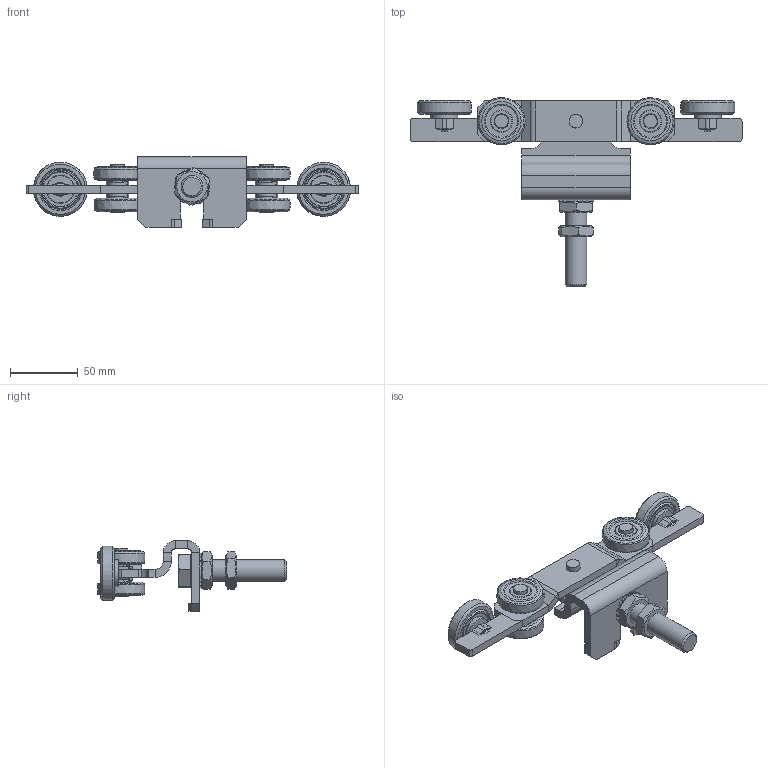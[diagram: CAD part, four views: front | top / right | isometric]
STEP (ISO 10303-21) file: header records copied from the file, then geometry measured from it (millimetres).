
FILE_DESCRIPTION(/* description */ ('Rollenhalter mit Seiten Nr.2'),/* implementation_level */ '2;1');
FILE_NAME(/* name */ 'Q:\sge-ma\Produktmanagement-STB\STB\Workspace\stp\010337912.stp',/* time_stamp */ '2015-03-10T13:36:26+01:00',/* author */ ('avschreier'),/* organization */ (''),/* preprocessor_version */ 'ST-DEVELOPER v15.6',/* originating_system */ 'Autodesk Inventor 2015',/* authorisation */ '');
FILE_SCHEMA (('CONFIG_CONTROL_DESIGN'));
Length unit declared in the file: millimetre
Products named in the file (18): 336300021_Schweißnähte; 337000121; 000302065; 000302000; 000226094; 337000282; DIN_625-6000_ZZ_en; 000302009; 336300021; 337000225; 000302242; DIN_EN_ISO_4035-M16_en; DIN_6798-A_17_en; DIN_EN_ISO_4017-M16x70_en; 336290020; 000303236; 000304013; 010337912
Bounding box: 245 x 139.5 x 52 mm (x, y, z)
Volume: 173684 mm3; surface area: 81150.2 mm2
Topology: 39 solids, 41 shells, 738 faces, 1795 edges, 1142 vertices
Faces by surface type: plane 395, cylinder 174, cone 69, bspline 46, torus 42, sphere 12
Full cylindrical faces by diameter (mm): 9.9 x2, 10 x10, 10.1 x1, 10.5 x2, 12 x2, 13.835 x2, 14.917 x1, 15.12 x8, 16 x2, 17 x1, 19 x2, 20 x2, 20.88 x8, 22 x1, 26 x4
Entity records: 21232 total; most frequent: CARTESIAN_POINT 9957, DIRECTION 2335, ORIENTED_EDGE 2160, EDGE_CURVE 1080, AXIS2_PLACEMENT_3D 875, VERTEX_POINT 715, LINE 585, VECTOR 585
